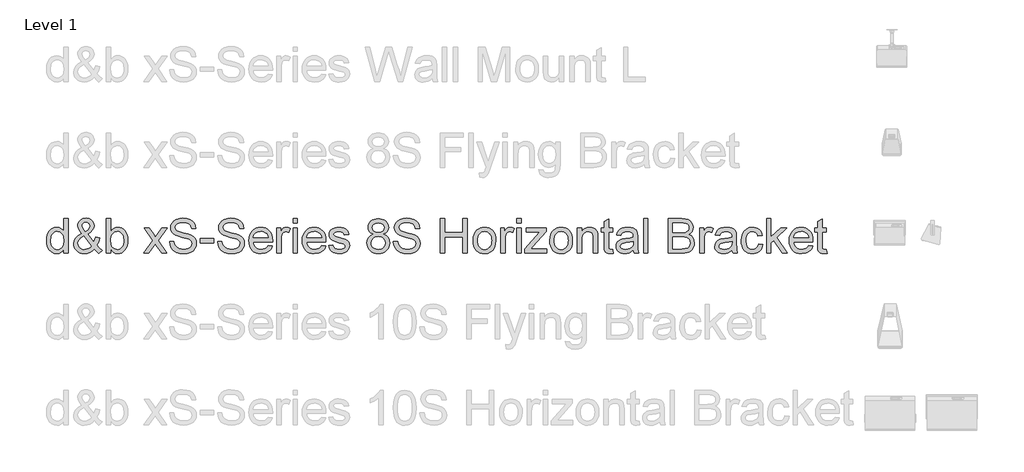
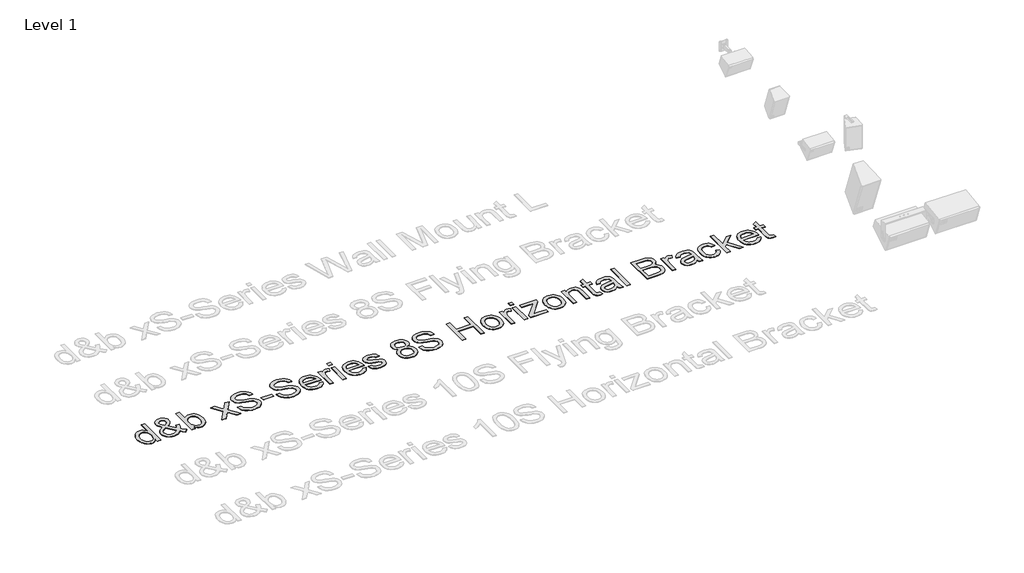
# One storey, part 38 of 55: 1 proxy.
"""IFC4 building model written with IfcOpenShell, lengths in millimetres."""

from ifc_helpers import new_model, si_unit, origin, origin_with_axes, place, context, project, spatial, polyline, outline, extrude, element, save

model = new_model("IFC4")

# Units and contexts
model_context = context("Model", 3, world=origin())
ifc_project = project(units=[si_unit("LENGTHUNIT", "METRE", prefix="MILLI")], contexts=[model_context])

# Site, building, storey
site = spatial("IfcSite", under=ifc_project)
building = spatial("IfcBuilding", under=site)
storey = spatial("IfcBuildingStorey", under=building, Name="Level 1", Elevation=0.0)

# Proxy
placement = place(None, origin())
element("IfcBuildingElementProxy", 1, Name="400mm Arial", ObjectType="400mm Arial", at=placement, inside=storey, context=model_context, shape_type="SweptSolid", body=[
    extrude(outline(polyline([(-20879.8211974, 1351.3054836), (-20879.8211974, 1398.6886846), (-20894.8491769, 1375.2116819), (-20913.0532043, 1358.4423943), (-20934.4332796, 1348.3808217), (-20958.9894028, 1345.0269642), (-20991.4611202, 1349.8830065), (-21021.1859854, 1364.4511335), (-21046.3491139, 1387.7135384), (-21065.1356211, 1418.6524142), (-21076.8342686, 1456.0169621), (-21080.7338177, 1498.5563835), (-21077.1408369, 1540.5685074), (-21066.3618944, 1578.5094038), (-21048.4092531, 1610.2208318), (-21023.2951755, 1633.5445503), (-20992.9203855, 1647.8919481), (-20959.1856065, 1652.674414), (-20934.6110892, 1649.2531115), (-20912.8815261, 1638.9892038), (-20894.4629008, 1623.2561171), (-20879.8211974, 1603.4272776), (-20879.8211974, 1753.1307242), (-20829.5930424, 1753.1307242), (-20829.5930424, 1351.3054836), (-20879.8211974, 1351.3054836)]), holes=[polyline([(-21030.5056627, 1498.7525872), (-21029.089317, 1474.3957335), (-21024.8402799, 1453.3191608), (-21017.7585515, 1435.5228693), (-21007.8441318, 1421.0068589), (-20983.1469871, 1401.6930542), (-20969.2717046, 1396.864603), (-20954.3786151, 1395.2551193), (-20939.415015, 1396.7910266), (-20925.6225058, 1401.3987486), (-20901.5507606, 1419.8296365), (-20892.0440767, 1433.7386416), (-20885.2535882, 1450.8911397), (-20879.8211974, 1494.9266145), (-20885.3516901, 1543.0701049), (-20892.2648059, 1561.6052261), (-20901.9431681, 1576.4492646), (-20913.6448812, 1587.8229496), (-20926.6280499, 1595.9470104), (-20940.8926743, 1600.8214468), (-20956.4387543, 1602.4462589), (-20971.6261493, 1600.8858262), (-20985.5014319, 1596.2045278), (-20998.064602, 1588.4023638), (-21009.3156597, 1577.4793342), (-21018.586286, 1563.1963157), (-21025.2081619, 1545.3141851), (-21030.5056627, 1498.7525872)])]), origin_with_axes(), (0.0, 0.0, 1.0), 5.0),
    extrude(outline(polyline([(-20523.809528, 1400.9450275), (-20549.3405384, 1376.4808748), (-20577.0788409, 1359.00648), (-20607.0734862, 1348.5218431), (-20639.3735254, 1345.0269642), (-20668.6814577, 1347.6144009), (-20694.8010793, 1355.376711), (-20717.7323904, 1368.3138945), (-20737.4753908, 1386.4259514), (-20750.308341, 1403.7961129), (-20759.4747341, 1422.1595558), (-20764.9745699, 1441.5162802), (-20766.8078485, 1461.8662859), (-20760.9094739, 1497.0603301), (-20743.2143499, 1528.6736562), (-20713.796053, 1556.6817387), (-20672.7281596, 1581.0600523), (-20694.6416638, 1609.4114914), (-20707.7995765, 1631.8768186), (-20714.3846642, 1651.0557332), (-20716.5796934, 1669.5479349), (-20714.8506481, 1687.1020374), (-20709.6635119, 1703.4666548), (-20701.018285, 1718.6417871), (-20688.9149674, 1732.6274343), (-20674.1935562, 1744.3444759), (-20657.6940487, 1752.7137912), (-20639.4164449, 1757.7353805), (-20619.3607448, 1759.4092436), (-20600.212487, 1757.8089569), (-20582.8913764, 1753.0080968), (-20567.397413, 1745.0066634), (-20553.7305969, 1733.8046567), (-20542.5715097, 1720.3585698), (-20534.6007332, 1705.6248959), (-20529.8182672, 1689.603635), (-20528.2241119, 1672.2947871), (-20532.9452642, 1644.31123), (-20547.108721, 1618.436863), (-20570.7144823, 1594.6716861), (-20603.7625482, 1573.0156993), (-20531.069066, 1482.4676776), (-20518.6837055, 1508.3420446), (-20509.3885538, 1538.0914353), (-20459.1603987, 1527.2021282), (-20474.6114425, 1480.6773185), (-20494.6732739, 1444.5022557), (-20466.1256311, 1411.1966724), (-20434.0463211, 1383.6790991), (-20471.7174374, 1345.0269642), (-20497.3465498, 1368.47331), (-20523.809528, 1400.9450275)]), holes=[polyline([(-20557.4584678, 1437.1446158), (-20647.1235727, 1549.0788442), (-20681.3733865, 1527.2266537), (-20702.305872, 1506.9931439), (-20713.0112381, 1487.6670765), (-20716.5796934, 1468.5372127), (-20711.6991256, 1444.8456122), (-20697.0574222, 1420.2710949), (-20686.2784798, 1409.3266056), (-20673.4639236, 1401.5091132), (-20658.6137537, 1396.8186177), (-20641.7279702, 1395.2551193), (-20619.0051256, 1398.1736498), (-20595.5710425, 1406.9292412), (-20574.1480476, 1420.3201459), (-20557.4584678, 1437.1446158)]), polyline([(-20629.1709314, 1604.7026019), (-20602.9041569, 1621.3676562), (-20587.8700461, 1635.8499441), (-20580.8067117, 1649.9398245), (-20578.452267, 1665.4276565), (-20581.5547385, 1682.9756277), (-20590.862153, 1696.9674062), (-20604.829406, 1706.1276679), (-20621.9113933, 1709.1810885), (-20639.3612626, 1706.1521934), (-20653.6473468, 1697.0655081), (-20663.1754905, 1683.6132898), (-20666.3515384, 1667.4877957), (-20662.0350563, 1649.0936959), (-20648.9875082, 1628.639457), (-20629.1709314, 1604.7026019)])]), origin_with_axes(), (0.0, 0.0, 1.0), 5.0),
    extrude(outline(polyline([(-20333.590011, 1351.3054836), (-20383.8181661, 1351.3054836), (-20383.8181661, 1753.1307242), (-20333.590011, 1753.1307242), (-20333.590011, 1604.1139907), (-20317.0721094, 1625.3591759), (-20298.4204923, 1640.5343082), (-20277.6351595, 1649.6393876), (-20254.7161112, 1652.674414), (-20228.8417442, 1649.9398245), (-20204.3898543, 1641.736056), (-20182.758393, 1628.5781433), (-20165.3453119, 1610.9811212), (-20151.6968898, 1589.116668), (-20141.3594058, 1563.1564619), (-20134.8478945, 1534.1796234), (-20132.6773907, 1503.265273), (-20134.9245365, 1467.5929822), (-20141.6659741, 1436.2126481), (-20152.9017034, 1409.1242705), (-20168.6317244, 1386.3278495), (-20187.5132678, 1368.2587122), (-20208.2035643, 1355.3521855), (-20230.702614, 1347.6082695), (-20255.0104168, 1345.0269642), (-20278.6836232, 1348.3562962), (-20299.671291, 1358.3442924), (-20317.9734203, 1374.9909527), (-20333.590011, 1398.2962771), (-20333.590011, 1351.3054836)]), holes=[polyline([(-20333.590011, 1500.9108283), (-20330.1564457, 1459.0213318), (-20319.8557498, 1430.6698927), (-20307.6849872, 1415.1759293), (-20293.5399244, 1404.1088126), (-20277.4205617, 1397.4685426), (-20259.3268989, 1395.2551193), (-20244.3050508, 1396.8860628), (-20230.3377977, 1401.7788933), (-20217.4251396, 1409.9336109), (-20205.5670767, 1421.3502155), (-20195.6526569, 1435.9980502), (-20188.5709285, 1453.8464584), (-20184.3218914, 1474.8954399), (-20182.9055458, 1499.1449947), (-20188.3379366, 1545.1057186), (-20195.1284251, 1562.8989445), (-20204.6351089, 1577.2340795), (-20216.0670419, 1588.264408), (-20228.6332778, 1596.1432141), (-20242.3338164, 1600.8704977), (-20257.1686579, 1602.4462589), (-20272.190506, 1600.8153154), (-20286.1577591, 1595.9224849), (-20299.0704171, 1587.7677673), (-20310.9284801, 1576.3511628), (-20320.8428999, 1561.8504808), (-20327.9246283, 1544.443531), (-20332.1736653, 1524.1303135), (-20333.590011, 1500.9108283)])]), origin_with_axes(), (0.0, 0.0, 1.0), 5.0),
    extrude(outline(polyline([(-19950.6003285, 1351.3054836), (-19843.2768878, 1499.7336059), (-19944.3218092, 1646.3958946), (-19884.0872638, 1646.3958946), (-19835.3306367, 1575.6644497), (-19812.4729021, 1542.4079173), (-19792.6563253, 1569.6802359), (-19737.1306695, 1646.3958946), (-19676.6999204, 1646.3958946), (-19782.8461387, 1499.635504), (-19680.623995, 1351.3054836), (-19740.9566422, 1351.3054836), (-19802.5646137, 1440.5781811), (-19813.7482263, 1456.9611926), (-19890.1695795, 1351.3054836), (-19950.6003285, 1351.3054836)])), origin_with_axes(), (0.0, 0.0, 1.0), 5.0),
    extrude(outline(polyline([(-19649.2313981, 1489.43291), (-19599.003243, 1489.43291), (-19593.2397584, 1461.5597175), (-19582.8164352, 1439.155704), (-19566.556051, 1421.3747409), (-19543.2813835, 1407.3706996), (-19514.8318425, 1398.2840144), (-19483.0468381, 1395.2551193), (-19455.063281, 1397.5482504), (-19430.5623402, 1404.4276437), (-19410.7089752, 1415.3169507), (-19396.6681457, 1429.6398231), (-19388.3172244, 1446.0841483), (-19385.533584, 1463.3378138), (-19387.6182486, 1480.150021), (-19393.8722425, 1494.6813598), (-19406.5764341, 1507.0789831), (-19428.0116917, 1517.4900435), (-19501.1466323, 1536.6689582), (-19549.1552327, 1549.360887), (-19579.8733793, 1561.4396792), (-19604.8770922, 1578.3377255), (-19622.5967416, 1598.8164899), (-19633.1549549, 1622.434514), (-19636.6743593, 1648.7503394), (-19632.3210891, 1678.1686363), (-19619.2612782, 1705.6003704), (-19597.8382834, 1728.8505125), (-19568.395461, 1745.7240333), (-19533.054264, 1755.987941), (-19493.9361452, 1759.4092436), (-19451.5561394, 1755.8285255), (-19414.4736342, 1745.0863712), (-19384.013005, 1727.40351), (-19361.4986269, 1703.000671), (-19347.249331, 1673.3984331), (-19341.5839483, 1640.1173753), (-19391.8121033, 1640.1173753), (-19401.0336787, 1670.0874951), (-19409.3968627, 1681.9455581), (-19420.2616443, 1691.7189564), (-19450.3053406, 1704.8155555), (-19491.9741079, 1709.1810885), (-19534.6238939, 1704.8646064), (-19550.9271976, 1699.4690038), (-19563.8827752, 1691.9151602), (-19580.805347, 1672.8588728), (-19586.4462043, 1650.2218674), (-19582.4485532, 1630.9203254), (-19570.4556002, 1615.3957052), (-19542.1041611, 1601.5142912), (-19488.4424407, 1587.3385717), (-19433.0639377, 1573.8740907), (-19399.5621507, 1562.1263923), (-19370.9286687, 1543.9039708), (-19350.9526764, 1521.4141181), (-19339.2172408, 1494.902089), (-19335.3054289, 1464.6131381), (-19339.805852, 1433.6497368), (-19353.3071212, 1404.5257455), (-19375.2574136, 1379.4607189), (-19405.1049061, 1360.6742117), (-19440.9979261, 1348.9387761), (-19481.0848008, 1345.0269642), (-19530.2951491, 1349.2453444), (-19570.7989567, 1361.900485), (-19603.0622077, 1383.041437), (-19627.5508858, 1412.7172513), (-19643.2717098, 1448.8677887), (-19649.2313981, 1489.43291)])), origin_with_axes(), (0.0, 0.0, 1.0), 5.0),
    extrude(outline(polyline([(-19291.3557932, 1470.5973519), (-19291.3557932, 1520.825507), (-19134.3928086, 1520.825507), (-19134.3928086, 1470.5973519), (-19291.3557932, 1470.5973519)])), origin_with_axes(), (0.0, 0.0, 1.0), 5.0),
    extrude(outline(polyline([(-19090.4431729, 1489.43291), (-19040.2150178, 1489.43291), (-19034.4515332, 1461.5597175), (-19024.02821, 1439.155704), (-19007.7678258, 1421.3747409), (-18984.4931583, 1407.3706996), (-18956.0436173, 1398.2840144), (-18924.2586129, 1395.2551193), (-18896.2750558, 1397.5482504), (-18871.774115, 1404.4276437), (-18851.9207499, 1415.3169507), (-18837.8799205, 1429.6398231), (-18829.5289992, 1446.0841483), (-18826.7453587, 1463.3378138), (-18828.8300234, 1480.150021), (-18835.0840173, 1494.6813598), (-18847.7882089, 1507.0789831), (-18869.2234665, 1517.4900435), (-18942.3584071, 1536.6689582), (-18990.3670075, 1549.360887), (-19021.0851541, 1561.4396792), (-19046.088867, 1578.3377255), (-19063.8085164, 1598.8164899), (-19074.3667297, 1622.434514), (-19077.8861341, 1648.7503394), (-19073.5328638, 1678.1686363), (-19060.473053, 1705.6003704), (-19039.0500582, 1728.8505125), (-19009.6072358, 1745.7240333), (-18974.2660388, 1755.987941), (-18935.14792, 1759.4092436), (-18892.7679141, 1755.8285255), (-18855.685409, 1745.0863712), (-18825.2247798, 1727.40351), (-18802.7104017, 1703.000671), (-18788.4611058, 1673.3984331), (-18782.7957231, 1640.1173753), (-18833.0238781, 1640.1173753), (-18842.2454535, 1670.0874951), (-18850.6086375, 1681.9455581), (-18861.4734191, 1691.7189564), (-18891.5171154, 1704.8155555), (-18933.1858827, 1709.1810885), (-18975.8356687, 1704.8646064), (-18992.1389724, 1699.4690038), (-19005.09455, 1691.9151602), (-19022.0171218, 1672.8588728), (-19027.657979, 1650.2218674), (-19023.660328, 1630.9203254), (-19011.667375, 1615.3957052), (-18983.3159359, 1601.5142912), (-18929.6542155, 1587.3385717), (-18874.2757125, 1573.8740907), (-18840.7739255, 1562.1263923), (-18812.1404435, 1543.9039708), (-18792.1644512, 1521.4141181), (-18780.4290156, 1494.902089), (-18776.5172037, 1464.6131381), (-18781.0176267, 1433.6497368), (-18794.518896, 1404.5257455), (-18816.4691883, 1379.4607189), (-18846.3166809, 1360.6742117), (-18882.2097009, 1348.9387761), (-18922.2965756, 1345.0269642), (-18971.5069238, 1349.2453444), (-19012.0107315, 1361.900485), (-19044.2739825, 1383.041437), (-19068.7626606, 1412.7172513), (-19084.4834846, 1448.8677887), (-19090.4431729, 1489.43291)])), origin_with_axes(), (0.0, 0.0, 1.0), 5.0),
    extrude(outline(polyline([(-18500.850962, 1439.204755), (-18451.6038255, 1432.9262356), (-18459.1546035, 1413.2016293), (-18469.3480004, 1395.819205), (-18482.1840164, 1380.7789628), (-18497.6626513, 1368.0809026), (-18515.6244897, 1357.9948045), (-18535.9101161, 1350.7904488), (-18583.4527326, 1345.0269642), (-18614.618469, 1347.5132333), (-18642.3874282, 1354.9720408), (-18666.7596104, 1367.4033865), (-18687.7350155, 1384.8072706), (-18704.602405, 1406.699315), (-18716.6505403, 1432.5951418), (-18723.8794215, 1462.4947509), (-18726.2890486, 1496.3981425), (-18723.8548961, 1531.4511652), (-18716.5524385, 1562.3471215), (-18704.3816758, 1589.0860112), (-18687.342608, 1611.6678343), (-18666.4223852, 1629.6082129), (-18642.6081574, 1642.4227691), (-18615.8999246, 1650.1115028), (-18586.2976867, 1652.674414), (-18557.6488763, 1650.1176342), (-18531.7407868, 1642.4472946), (-18508.5734182, 1629.6633952), (-18488.1467704, 1611.7659362), (-18471.472519, 1589.233164), (-18459.5623394, 1562.5433252), (-18452.4162316, 1531.6964199), (-18450.0341957, 1496.6924481), (-18450.3285013, 1483.1543906), (-18676.0608935, 1483.1543906), (-18673.1515601, 1463.1109533), (-18667.3666157, 1445.5568507), (-18658.7060604, 1430.492083), (-18647.1698942, 1417.9166502), (-18633.3957791, 1408.0022304), (-18618.0213774, 1400.920502), (-18582.4717139, 1395.2551193), (-18555.7389556, 1397.8793442), (-18533.2245775, 1405.7520189), (-18514.9285796, 1419.3636527), (-18500.850962, 1439.204755)]), holes=[polyline([(-18676.0608935, 1533.3825457), (-18500.2623508, 1533.3825457), (-18507.0559049, 1559.9191003), (-18520.3732332, 1578.9018113), (-18534.0707061, 1589.2025071), (-18549.65664, 1596.560147), (-18567.1310348, 1600.974731), (-18586.4938904, 1602.4462589), (-18620.3512967, 1597.7496321), (-18648.3471166, 1583.6597517), (-18667.8080741, 1561.6971966), (-18676.0608935, 1533.3825457)])]), origin_with_axes(), (0.0, 0.0, 1.0), 5.0),
    extrude(outline(polyline([(-18399.8060406, 1351.3054836), (-18399.8060406, 1646.3958946), (-18355.8564049, 1646.3958946), (-18355.8564049, 1602.7405645), (-18339.6205462, 1628.0508458), (-18324.6600117, 1642.9623293), (-18309.6504263, 1650.2463929), (-18293.2674148, 1652.674414), (-18268.2514391, 1648.7993903), (-18242.843056, 1637.1743193), (-18259.618475, 1592.1455631), (-18277.2768108, 1599.871085), (-18294.9351465, 1602.4462589), (-18309.9324692, 1599.9691868), (-18323.3356365, 1592.5379705), (-18334.1636299, 1580.7166958), (-18341.4354307, 1565.0694482), (-18347.5422718, 1537.0123147), (-18349.5778855, 1506.4045327), (-18349.5778855, 1351.3054836), (-18399.8060406, 1351.3054836)])), origin_with_axes(), (0.0, 0.0, 1.0), 5.0),
    extrude(outline(polyline([(-18211.4504591, 1702.9025691), (-18211.4504591, 1753.1307242), (-18161.222304, 1753.1307242), (-18161.222304, 1702.9025691), (-18211.4504591, 1702.9025691)])), origin_with_axes(), (0.0, 0.0, 1.0), 5.0),
    extrude(outline(polyline([(-18211.4504591, 1351.3054836), (-18211.4504591, 1646.3958946), (-18161.222304, 1646.3958946), (-18161.222304, 1351.3054836), (-18211.4504591, 1351.3054836)])), origin_with_axes(), (0.0, 0.0, 1.0), 5.0),
    extrude(outline(polyline([(-17879.2775429, 1439.204755), (-17830.0304065, 1432.9262356), (-17837.5811844, 1413.2016293), (-17847.7745814, 1395.819205), (-17860.6105973, 1380.7789628), (-17876.0892323, 1368.0809026), (-17894.0510707, 1357.9948045), (-17914.336697, 1350.7904488), (-17961.8793136, 1345.0269642), (-17993.0450499, 1347.5132333), (-18020.8140092, 1354.9720408), (-18045.1861914, 1367.4033865), (-18066.1615965, 1384.8072706), (-18083.0289859, 1406.699315), (-18095.0771213, 1432.5951418), (-18102.3060025, 1462.4947509), (-18104.7156295, 1496.3981425), (-18102.281477, 1531.4511652), (-18094.9790194, 1562.3471215), (-18082.8082567, 1589.0860112), (-18065.769189, 1611.6678343), (-18044.8489662, 1629.6082129), (-18021.0347384, 1642.4227691), (-17994.3265055, 1650.1115028), (-17964.7242676, 1652.674414), (-17936.0754573, 1650.1176342), (-17910.1673678, 1642.4472946), (-17886.9999991, 1629.6633952), (-17866.5733513, 1611.7659362), (-17849.8990999, 1589.233164), (-17837.9889203, 1562.5433252), (-17830.8428126, 1531.6964199), (-17828.4607766, 1496.6924481), (-17828.7550822, 1483.1543906), (-18054.4874745, 1483.1543906), (-18051.578141, 1463.1109533), (-18045.7931967, 1445.5568507), (-18037.1326413, 1430.492083), (-18025.5964751, 1417.9166502), (-18011.8223601, 1408.0022304), (-17996.4479584, 1400.920502), (-17960.8982949, 1395.2551193), (-17934.1655366, 1397.8793442), (-17911.6511585, 1405.7520189), (-17893.3551606, 1419.3636527), (-17879.2775429, 1439.204755)]), holes=[polyline([(-18054.4874745, 1533.3825457), (-17878.6889317, 1533.3825457), (-17885.4824859, 1559.9191003), (-17898.7998141, 1578.9018113), (-17912.4972871, 1589.2025071), (-17928.0832209, 1596.560147), (-17945.5576157, 1600.974731), (-17964.9204714, 1602.4462589), (-17998.7778777, 1597.7496321), (-18026.7736975, 1583.6597517), (-18046.234655, 1561.6971966), (-18054.4874745, 1533.3825457)])]), origin_with_axes(), (0.0, 0.0, 1.0), 5.0),
    extrude(outline(polyline([(-17797.0681797, 1439.204755), (-17746.8400246, 1445.4832743), (-17738.918299, 1423.9989658), (-17723.5898825, 1408.2045655), (-17700.7566734, 1398.4924808), (-17670.3205696, 1395.2551193), (-17640.2523479, 1398.2227007), (-17619.1113959, 1407.125445), (-17606.6034081, 1420.0258403), (-17602.4340788, 1434.9863747), (-17606.6279335, 1447.7886682), (-17619.2094978, 1457.5498038), (-17670.9091808, 1471.8726761), (-17746.545719, 1496.4471934), (-17765.6878455, 1508.7957657), (-17779.5569967, 1525.141989), (-17787.9814944, 1544.443531), (-17790.7896603, 1565.6580594), (-17788.5333174, 1585.119017), (-17781.7642887, 1603.0839211), (-17771.0957109, 1618.8415332), (-17757.1407205, 1631.6806148), (-17725.2085633, 1646.5430474), (-17704.3251287, 1651.1415724), (-17681.9946916, 1652.674414), (-17649.302245, 1650.2096047), (-17620.8772295, 1642.8151766), (-17598.0194949, 1631.214631), (-17582.0288908, 1616.1314692), (-17571.4338893, 1596.4497824), (-17564.7629625, 1571.053662), (-17614.9911176, 1564.7751426), (-17621.3309506, 1580.5818057), (-17633.8757267, 1592.4889196), (-17652.748073, 1599.9569241), (-17678.070617, 1602.4462589), (-17706.9125654, 1600.0672887), (-17726.140531, 1592.930378), (-17736.9562617, 1582.6296821), (-17740.5615053, 1570.7593564), (-17734.5772915, 1556.1421785), (-17715.8398352, 1545.0566677), (-17672.5769125, 1534.3635644), (-17598.8533607, 1510.7210148), (-17579.3801404, 1499.4147748), (-17564.6158097, 1483.9392056), (-17555.3083952, 1464.2452561), (-17552.2059237, 1440.2838755), (-17555.8479555, 1415.5131545), (-17566.7740507, 1392.2139614), (-17584.5672766, 1372.2134436), (-17608.8107, 1357.3387483), (-17638.0941069, 1348.1049102), (-17671.0072827, 1345.0269642), (-17698.040478, 1346.5107549), (-17721.6523707, 1350.962127), (-17741.8429609, 1358.3810806), (-17758.6122485, 1368.7676156), (-17772.3097214, 1382.0726811), (-17783.2848676, 1398.2472262), (-17791.5376871, 1417.2912508), (-17797.0681797, 1439.204755)])), origin_with_axes(), (0.0, 0.0, 1.0), 5.0),
    extrude(outline(polyline([(-17278.1093119, 1572.6232919), (-17305.0014857, 1585.8670437), (-17323.8738321, 1603.8196851), (-17335.0206565, 1626.113334), (-17338.7362647, 1652.3801084), (-17336.7129137, 1672.8650042), (-17330.6428608, 1691.64538), (-17320.5261059, 1708.721236), (-17306.3626491, 1724.092572), (-17288.833072, 1736.7967636), (-17268.6179564, 1745.8711861), (-17245.7173022, 1751.3158397), (-17220.1311094, 1753.1307242), (-17194.4222893, 1751.2729201), (-17171.3499568, 1745.6995079), (-17150.914112, 1736.4104875), (-17133.1147548, 1723.405859), (-17118.6937806, 1707.734086), (-17108.3930847, 1690.4436322), (-17102.2126672, 1671.5344976), (-17100.152528, 1651.0066823), (-17103.8190853, 1625.5860364), (-17114.8187569, 1603.6725323), (-17133.2741703, 1585.8302555), (-17159.3079529, 1572.6232919), (-17128.3936025, 1556.6940015), (-17105.8914872, 1533.2353929), (-17092.1694888, 1503.3756376), (-17087.5954893, 1468.2429071), (-17089.8640949, 1443.1901432), (-17096.6699118, 1420.222044), (-17108.01294, 1399.3386094), (-17123.8931795, 1380.5398395), (-17143.4767643, 1365.0029565), (-17165.9298288, 1353.905183), (-17191.2523728, 1347.2465189), (-17219.4443964, 1345.0269642), (-17247.6364199, 1347.2557159), (-17272.9589639, 1353.9419712), (-17295.4120284, 1365.08573), (-17314.9956132, 1380.6869923), (-17330.8758527, 1399.6175866), (-17342.2188809, 1420.7493415), (-17349.0246978, 1444.0822571), (-17351.2933034, 1469.6163332), (-17346.535363, 1506.1102271), (-17332.2615415, 1536.1293979), (-17309.2076032, 1558.6437761), (-17278.1093119, 1572.6232919)]), holes=[polyline([(-17288.5081096, 1650.9085804), (-17284.0567374, 1628.9828135), (-17270.702621, 1611.4716306), (-17248.8381678, 1599.9937123), (-17218.8557852, 1596.1677396), (-17189.5723783, 1599.9691868), (-17168.0390189, 1611.3735287), (-17154.7952671, 1628.2961005), (-17150.3806831, 1648.6522375), (-17154.9424199, 1669.7809268), (-17168.6276301, 1687.2553216), (-17190.4552951, 1698.9907572), (-17219.4443964, 1702.9025691), (-17248.6174386, 1699.0765963), (-17270.4083154, 1687.5986781), (-17283.983161, 1670.7742082), (-17288.5081096, 1650.9085804)]), polyline([(-17301.0651483, 1471.3821668), (-17298.968221, 1452.1664639), (-17292.6774389, 1433.5638977), (-17281.0646305, 1417.3403017), (-17263.0016246, 1405.2615095), (-17241.3701633, 1397.7567168), (-17219.0519889, 1395.2551193), (-17184.8634888, 1400.5158318), (-17170.9698121, 1407.0917225), (-17159.209851, 1416.2979694), (-17143.170196, 1440.1980363), (-17137.8236444, 1469.812537), (-17143.3418743, 1499.9298096), (-17159.8965641, 1524.3571741), (-17171.9753562, 1533.7994786), (-17186.1388131, 1540.5439819), (-17220.7197206, 1545.9395845), (-17254.4299741, 1540.6175583), (-17268.1673009, 1533.9650255), (-17279.8260945, 1524.6514797), (-17295.7553849, 1500.6900991), (-17301.0651483, 1471.3821668)])]), origin_with_axes(), (0.0, 0.0, 1.0), 5.0),
    extrude(outline(polyline([(-17043.6458536, 1489.43291), (-16993.4176985, 1489.43291), (-16987.6542139, 1461.5597175), (-16977.2308907, 1439.155704), (-16960.9705065, 1421.3747409), (-16937.695839, 1407.3706996), (-16909.246298, 1398.2840144), (-16877.4612936, 1395.2551193), (-16849.4777365, 1397.5482504), (-16824.9767957, 1404.4276437), (-16805.1234307, 1415.3169507), (-16791.0826012, 1429.6398231), (-16782.7316799, 1446.0841483), (-16779.9480394, 1463.3378138), (-16782.0327041, 1480.150021), (-16788.286698, 1494.6813598), (-16800.9908896, 1507.0789831), (-16822.4261472, 1517.4900435), (-16895.5610878, 1536.6689582), (-16943.5696882, 1549.360887), (-16974.2878348, 1561.4396792), (-16999.2915477, 1578.3377255), (-17017.0111971, 1598.8164899), (-17027.5694104, 1622.434514), (-17031.0888148, 1648.7503394), (-17026.7355445, 1678.1686363), (-17013.6757337, 1705.6003704), (-16992.2527389, 1728.8505125), (-16962.8099165, 1745.7240333), (-16927.4687195, 1755.987941), (-16888.3506007, 1759.4092436), (-16845.9705948, 1755.8285255), (-16808.8880897, 1745.0863712), (-16778.4274605, 1727.40351), (-16755.9130824, 1703.000671), (-16741.6637865, 1673.3984331), (-16735.9984038, 1640.1173753), (-16786.2265588, 1640.1173753), (-16795.4481342, 1670.0874951), (-16803.8113182, 1681.9455581), (-16814.6760998, 1691.7189564), (-16844.7197961, 1704.8155555), (-16886.3885634, 1709.1810885), (-16929.0383494, 1704.8646064), (-16945.3416531, 1699.4690038), (-16958.2972307, 1691.9151602), (-16975.2198025, 1672.8588728), (-16980.8606597, 1650.2218674), (-16976.8630087, 1630.9203254), (-16964.8700557, 1615.3957052), (-16936.5186166, 1601.5142912), (-16882.8568962, 1587.3385717), (-16827.4783932, 1573.8740907), (-16793.9766062, 1562.1263923), (-16765.3431242, 1543.9039708), (-16745.3671319, 1521.4141181), (-16733.6316963, 1494.902089), (-16729.7198844, 1464.6131381), (-16734.2203074, 1433.6497368), (-16747.7215767, 1404.5257455), (-16769.671869, 1379.4607189), (-16799.5193616, 1360.6742117), (-16835.4123816, 1348.9387761), (-16875.4992563, 1345.0269642), (-16924.7096046, 1349.2453444), (-16965.2134122, 1361.900485), (-16997.4766632, 1383.041437), (-17021.9653413, 1412.7172513), (-17037.6861653, 1448.8677887), (-17043.6458536, 1489.43291)])), origin_with_axes(), (0.0, 0.0, 1.0), 5.0),
    extrude(outline(polyline([(-16497.4146672, 1351.3054836), (-16497.4146672, 1753.1307242), (-16447.1865121, 1753.1307242), (-16447.1865121, 1589.8892202), (-16233.716853, 1589.8892202), (-16233.716853, 1753.1307242), (-16183.4886979, 1753.1307242), (-16183.4886979, 1351.3054836), (-16233.716853, 1351.3054836), (-16233.716853, 1539.6610651), (-16447.1865121, 1539.6610651), (-16447.1865121, 1351.3054836), (-16497.4146672, 1351.3054836)])), origin_with_axes(), (0.0, 0.0, 1.0), 5.0),
    extrude(outline(polyline([(-16114.4249847, 1498.8506891), (-16111.7087893, 1537.067497), (-16103.5602031, 1569.999067), (-16089.9792261, 1597.6453989), (-16070.9658583, 1620.0064928), (-16051.8237319, 1634.2987084), (-16030.6950426, 1644.5074337), (-16007.5797906, 1650.6326689), (-15982.4779758, 1652.674414), (-15954.7672645, 1650.1881449), (-15929.7114349, 1642.7293374), (-15907.3104871, 1630.2979917), (-15887.564421, 1612.8941076), (-15871.4481239, 1591.1062964), (-15859.9364832, 1565.5231694), (-15853.0294987, 1536.1447264), (-15850.7271706, 1502.9709675), (-15854.798398, 1452.2277776), (-15867.0120802, 1413.6001681), (-15887.012598, 1384.6723805), (-15914.4443321, 1363.0286565), (-15947.0264142, 1349.5273873), (-15982.4779758, 1345.0269642), (-16010.5933573, 1347.5040363), (-16035.8821787, 1354.9352526), (-16058.3444402, 1367.3206131), (-16077.9801417, 1384.6601178), (-16093.9247605, 1406.6594611), (-16105.313774, 1433.0243374), (-16112.147182, 1463.7547468), (-16114.4249847, 1498.8506891)]), holes=[polyline([(-16064.1968296, 1498.948791), (-16062.7436958, 1474.5858058), (-16058.3842941, 1453.4908391), (-16051.1186247, 1435.6638907), (-16040.9466875, 1421.1049608), (-16028.5735898, 1409.7956551), (-16014.7044385, 1401.7175796), (-15999.3392339, 1396.8707344), (-15982.4779758, 1395.2551193), (-15965.7025568, 1396.8799314), (-15950.3986658, 1401.7543678), (-15936.5663028, 1409.8784286), (-15924.2054677, 1421.2521136), (-15914.0335306, 1435.9551307), (-15906.7678612, 1454.0671876), (-15902.4084595, 1475.5882843), (-15900.9553256, 1500.5184208), (-15902.4176566, 1524.1088538), (-15906.8046494, 1544.6519975), (-15914.116304, 1562.1478521), (-15924.3526205, 1576.5964174), (-15936.7594408, 1587.9057231), (-15950.5826068, 1595.9837986), (-15965.8221184, 1600.8306439), (-15982.4779758, 1602.4462589), (-15999.3392339, 1600.8367752), (-16014.7044385, 1596.008324), (-16028.5735898, 1587.9609054), (-16040.9466875, 1576.6945193), (-16051.1186247, 1562.1785089), (-16058.3842941, 1544.3822174), (-16062.7436958, 1523.3056447), (-16064.1968296, 1498.948791)])]), origin_with_axes(), (0.0, 0.0, 1.0), 5.0),
    extrude(outline(polyline([(-15794.2204961, 1351.3054836), (-15794.2204961, 1646.3958946), (-15750.2708604, 1646.3958946), (-15750.2708604, 1602.7405645), (-15734.0350017, 1628.0508458), (-15719.0744672, 1642.9623293), (-15704.0648818, 1650.2463929), (-15687.6818703, 1652.674414), (-15662.6658946, 1648.7993903), (-15637.2575115, 1637.1743193), (-15654.0329305, 1592.1455631), (-15671.6912662, 1599.871085), (-15689.349602, 1602.4462589), (-15704.3469247, 1599.9691868), (-15717.750092, 1592.5379705), (-15728.5780854, 1580.7166958), (-15735.8498862, 1565.0694482), (-15741.9567273, 1537.0123147), (-15743.992341, 1506.4045327), (-15743.992341, 1351.3054836), (-15794.2204961, 1351.3054836)])), origin_with_axes(), (0.0, 0.0, 1.0), 5.0),
    extrude(outline(polyline([(-15605.8649146, 1351.3054836), (-15605.8649146, 1646.3958946), (-15555.6367595, 1646.3958946), (-15555.6367595, 1351.3054836), (-15605.8649146, 1351.3054836)])), origin_with_axes(), (0.0, 0.0, 1.0), 5.0),
    extrude(outline(polyline([(-15605.8649146, 1702.9025691), (-15605.8649146, 1753.1307242), (-15555.6367595, 1753.1307242), (-15555.6367595, 1702.9025691), (-15605.8649146, 1702.9025691)])), origin_with_axes(), (0.0, 0.0, 1.0), 5.0),
    extrude(outline(polyline([(-15511.6871238, 1351.3054836), (-15511.6871238, 1398.5905827), (-15338.3411277, 1596.1677396), (-15389.6484033, 1596.1677396), (-15499.130085, 1596.1677396), (-15499.130085, 1646.3958946), (-15266.8248678, 1646.3958946), (-15266.8248678, 1603.7215832), (-15420.5504909, 1428.4135498), (-15444.0949386, 1401.5336386), (-15386.0186343, 1401.5336386), (-15260.5463484, 1401.5336386), (-15260.5463484, 1351.3054836), (-15511.6871238, 1351.3054836)])), origin_with_axes(), (0.0, 0.0, 1.0), 5.0),
    extrude(outline(polyline([(-15222.8752321, 1498.8506891), (-15220.1590367, 1537.067497), (-15212.0104505, 1569.999067), (-15198.4294735, 1597.6453989), (-15179.4161058, 1620.0064928), (-15160.2739793, 1634.2987084), (-15139.14529, 1644.5074337), (-15116.030038, 1650.6326689), (-15090.9282232, 1652.674414), (-15063.2175119, 1650.1881449), (-15038.1616824, 1642.7293374), (-15015.7607345, 1630.2979917), (-14996.0146684, 1612.8941076), (-14979.8983714, 1591.1062964), (-14968.3867306, 1565.5231694), (-14961.4797461, 1536.1447264), (-14959.177418, 1502.9709675), (-14963.2486454, 1452.2277776), (-14975.4623276, 1413.6001681), (-14995.4628454, 1384.6723805), (-15022.8945796, 1363.0286565), (-15055.4766616, 1349.5273873), (-15090.9282232, 1345.0269642), (-15119.0436047, 1347.5040363), (-15144.3324262, 1354.9352526), (-15166.7946876, 1367.3206131), (-15186.4303891, 1384.6601178), (-15202.3750079, 1406.6594611), (-15213.7640214, 1433.0243374), (-15220.5974294, 1463.7547468), (-15222.8752321, 1498.8506891)]), holes=[polyline([(-15172.6470771, 1498.948791), (-15171.1939432, 1474.5858058), (-15166.8345415, 1453.4908391), (-15159.5688721, 1435.6638907), (-15149.396935, 1421.1049608), (-15137.0238372, 1409.7956551), (-15123.154686, 1401.7175796), (-15107.7894813, 1396.8707344), (-15090.9282232, 1395.2551193), (-15074.1528042, 1396.8799314), (-15058.8489132, 1401.7543678), (-15045.0165502, 1409.8784286), (-15032.6557152, 1421.2521136), (-15022.483778, 1435.9551307), (-15015.2181086, 1454.0671876), (-15010.8587069, 1475.5882843), (-15009.4055731, 1500.5184208), (-15010.867904, 1524.1088538), (-15015.2548968, 1544.6519975), (-15022.5665514, 1562.1478521), (-15032.802868, 1576.5964174), (-15045.2096882, 1587.9057231), (-15059.0328542, 1595.9837986), (-15074.2723659, 1600.8306439), (-15090.9282232, 1602.4462589), (-15107.7894813, 1600.8367752), (-15123.154686, 1596.008324), (-15137.0238372, 1587.9609054), (-15149.396935, 1576.6945193), (-15159.5688721, 1562.1785089), (-15166.8345415, 1544.3822174), (-15171.1939432, 1523.3056447), (-15172.6470771, 1498.948791)])]), origin_with_axes(), (0.0, 0.0, 1.0), 5.0),
    extrude(outline(polyline([(-14902.6707435, 1351.3054836), (-14902.6707435, 1646.3958946), (-14852.4425885, 1646.3958946), (-14852.4425885, 1605.1931112), (-14834.9927191, 1625.9661812), (-14814.0357082, 1640.8040883), (-14789.5715555, 1649.7068326), (-14761.6002611, 1652.674414), (-14736.8418028, 1650.2831811), (-14714.1680092, 1643.1094821), (-14695.2588746, 1632.0484968), (-14681.7943936, 1617.9954046), (-14672.6586574, 1600.9869937), (-14666.7357573, 1581.0600523), (-14664.0870069, 1532.4996289), (-14664.0870069, 1351.3054836), (-14714.315162, 1351.3054836), (-14714.315162, 1525.7306002), (-14715.7621645, 1551.7030691), (-14720.1031721, 1570.1707452), (-14728.1107368, 1583.4022343), (-14740.557411, 1593.666142), (-14756.5112268, 1600.2512297), (-14775.0402167, 1602.4462589), (-14804.4585135, 1597.5166402), (-14829.5358029, 1582.727784), (-14839.5575216, 1570.6551232), (-14846.7158921, 1554.1556157), (-14851.0109144, 1533.2292616), (-14852.4425885, 1507.8760607), (-14852.4425885, 1351.3054836), (-14902.6707435, 1351.3054836)])), origin_with_axes(), (0.0, 0.0, 1.0), 5.0),
    extrude(outline(polyline([(-14488.2884642, 1393.1949801), (-14482.0099448, 1349.8339556), (-14519.5829592, 1345.0269642), (-14543.6914926, 1347.1116288), (-14561.6686595, 1353.3656227), (-14574.372851, 1363.004131), (-14582.6624587, 1375.2423387), (-14587.2241954, 1396.2606634), (-14588.7447743, 1432.2395225), (-14588.7447743, 1596.1677396), (-14626.4158906, 1596.1677396), (-14626.4158906, 1646.3958946), (-14588.7447743, 1646.3958946), (-14588.7447743, 1718.1083582), (-14538.5166192, 1747.6370197), (-14538.5166192, 1646.3958946), (-14488.2884642, 1646.3958946), (-14488.2884642, 1596.1677396), (-14538.5166192, 1596.1677396), (-14538.5166192, 1433.7110505), (-14535.8678689, 1407.812158), (-14527.2839556, 1398.6396336), (-14510.1651801, 1395.2551193), (-14488.2884642, 1393.1949801)])), origin_with_axes(), (0.0, 0.0, 1.0), 5.0),
    extrude(outline(polyline([(-14249.7047276, 1388.9765999), (-14273.7028964, 1368.3997336), (-14298.4123037, 1354.9352526), (-14324.3970353, 1347.5040363), (-14352.2211769, 1345.0269642), (-14374.5853365, 1346.5168863), (-14394.1965125, 1350.9866525), (-14411.054705, 1358.4362629), (-14425.1599138, 1368.8657175), (-14436.2975412, 1381.6128286), (-14444.2529893, 1396.0154087), (-14449.0262582, 1412.0734578), (-14450.6173479, 1429.7869759), (-14448.2138522, 1450.6090968), (-14441.003365, 1469.5182314), (-14429.8810661, 1485.7050391), (-14415.7421347, 1498.3601798), (-14399.1261313, 1507.9251117), (-14380.572616, 1514.8412932), (-14337.1134896, 1522.3951368), (-14285.7571631, 1530.3413879), (-14249.9990332, 1539.6610651), (-14249.7047276, 1550.8446778), (-14253.1628183, 1573.260954), (-14263.5370906, 1587.9271829), (-14286.7381817, 1598.8164899), (-14319.0627464, 1602.4462589), (-14348.9838153, 1600.0305005), (-14369.8795126, 1592.7832252), (-14384.1288086, 1579.3800578), (-14394.1106734, 1558.4966233), (-14444.3388285, 1564.7751426), (-14435.6200252, 1592.2436649), (-14422.6092653, 1613.8260753), (-14404.0925382, 1630.3317142), (-14378.8558333, 1642.5699219), (-14347.9905339, 1650.148291), (-14312.5880233, 1652.674414), (-14278.6325151, 1650.4425966), (-14251.7158158, 1643.7471443), (-14231.4209924, 1633.6794403), (-14217.331112, 1621.330868), (-14207.9869093, 1606.0637652), (-14201.9291191, 1587.2404698), (-14199.4765725, 1543.2908341), (-14199.4765725, 1480.7999459), (-14196.925924, 1393.5383366), (-14186.9195337, 1351.3054836), (-14237.1476888, 1351.3054836), (-14245.1920417, 1368.7676156), (-14249.7047276, 1388.9765999)]), holes=[polyline([(-14249.7047276, 1489.43291), (-14283.4517692, 1481.069726), (-14330.7368684, 1474.0309172), (-14373.9507401, 1465.8884623), (-14385.1956664, 1460.3211815), (-14393.5220622, 1452.6447105), (-14398.6724101, 1443.4476606), (-14400.3891928, 1433.318643), (-14396.6490592, 1418.382634), (-14385.4286583, 1406.1444263), (-14366.9732449, 1397.977446), (-14341.5280736, 1395.2551193), (-14314.5500606, 1398.2594889), (-14290.7113073, 1407.2725978), (-14271.3852398, 1420.5531378), (-14257.9452842, 1436.3598009), (-14251.9855959, 1452.6447105), (-14249.9990332, 1475.2081395), (-14249.7047276, 1489.43291)])]), origin_with_axes(), (0.0, 0.0, 1.0), 5.0),
    extrude(outline(polyline([(-14130.4128593, 1351.3054836), (-14130.4128593, 1753.1307242), (-14080.1847042, 1753.1307242), (-14080.1847042, 1351.3054836), (-14130.4128593, 1351.3054836)])), origin_with_axes(), (0.0, 0.0, 1.0), 5.0),
    extrude(outline(polyline([(-13841.6009676, 1351.3054836), (-13841.6009676, 1753.1307242), (-13688.267752, 1753.1307242), (-13646.0962126, 1750.1754055), (-13613.170774, 1741.3094494), (-13587.9340692, 1726.3121267), (-13568.8287309, 1704.9627083), (-13556.7989896, 1679.8486307), (-13552.7890759, 1653.5573308), (-13556.1613275, 1629.3629583), (-13566.2780824, 1606.6155882), (-13583.2129169, 1586.7131723), (-13607.0394074, 1571.053662), (-13578.5776038, 1556.1912294), (-13557.5470164, 1533.5787494), (-13544.5607819, 1504.7122756), (-13540.2320371, 1471.0878612), (-13543.1873558, 1443.0675159), (-13552.0533119, 1417.0827843), (-13565.284801, 1394.9853391), (-13581.3367187, 1378.6268531), (-13600.99388, 1366.7810528), (-13625.0410997, 1358.2216651), (-13654.2631929, 1353.0345289), (-13689.4449744, 1351.3054836), (-13841.6009676, 1351.3054836)]), holes=[polyline([(-13791.3728125, 1401.5336386), (-13688.3658538, 1401.5336386), (-13651.087145, 1403.495676), (-13619.5473953, 1414.4340339), (-13607.9713752, 1423.8640758), (-13598.651698, 1436.7522083), (-13592.5080686, 1452.5220832), (-13590.4601922, 1470.5973519), (-13592.8636879, 1491.5911511), (-13600.074175, 1509.6418943), (-13612.668002, 1523.7563002), (-13631.2215173, 1532.9410873), (-13657.5005545, 1537.9810707), (-13693.2709471, 1539.6610651), (-13791.3728125, 1539.6610651), (-13791.3728125, 1401.5336386)]), polyline([(-13791.3728125, 1589.8892202), (-13699.6475684, 1589.8892202), (-13646.0839499, 1594.2057023), (-13627.3342308, 1601.6491813), (-13613.8574871, 1612.7960057), (-13605.727295, 1627.4744974), (-13603.017231, 1645.5129778), (-13605.543354, 1663.0241608), (-13613.1217231, 1678.2790009), (-13625.4089817, 1690.1861148), (-13642.0617734, 1697.6541193), (-13667.6173093, 1701.5904566), (-13706.6128008, 1702.9025691), (-13791.3728125, 1702.9025691), (-13791.3728125, 1589.8892202)])]), origin_with_axes(), (0.0, 0.0, 1.0), 5.0),
    extrude(outline(polyline([(-13477.4468433, 1351.3054836), (-13477.4468433, 1646.3958946), (-13433.4972076, 1646.3958946), (-13433.4972076, 1602.7405645), (-13417.2613489, 1628.0508458), (-13402.3008144, 1642.9623293), (-13387.291229, 1650.2463929), (-13370.9082175, 1652.674414), (-13345.8922418, 1648.7993903), (-13320.4838587, 1637.1743193), (-13337.2592777, 1592.1455631), (-13354.9176134, 1599.871085), (-13372.5759492, 1602.4462589), (-13387.5732719, 1599.9691868), (-13400.9764392, 1592.5379705), (-13411.8044326, 1580.7166958), (-13419.0762334, 1565.0694482), (-13425.1830745, 1537.0123147), (-13427.2186882, 1506.4045327), (-13427.2186882, 1351.3054836), (-13477.4468433, 1351.3054836)])), origin_with_axes(), (0.0, 0.0, 1.0), 5.0),
    extrude(outline(polyline([(-13100.7356802, 1388.9765999), (-13124.733849, 1368.3997336), (-13149.4432564, 1354.9352526), (-13175.427988, 1347.5040363), (-13203.2521295, 1345.0269642), (-13225.6162892, 1346.5168863), (-13245.2274652, 1350.9866525), (-13262.0856576, 1358.4362629), (-13276.1908665, 1368.8657175), (-13287.3284939, 1381.6128286), (-13295.283942, 1396.0154087), (-13300.0572109, 1412.0734578), (-13301.6483005, 1429.7869759), (-13299.2448048, 1450.6090968), (-13292.0343177, 1469.5182314), (-13280.9120187, 1485.7050391), (-13266.7730874, 1498.3601798), (-13250.1570839, 1507.9251117), (-13231.6035686, 1514.8412932), (-13188.1444423, 1522.3951368), (-13136.7881157, 1530.3413879), (-13101.0299858, 1539.6610651), (-13100.7356802, 1550.8446778), (-13104.193771, 1573.260954), (-13114.5680432, 1587.9271829), (-13137.7691344, 1598.8164899), (-13170.093699, 1602.4462589), (-13200.014768, 1600.0305005), (-13220.9104653, 1592.7832252), (-13235.1597613, 1579.3800578), (-13245.1416261, 1558.4966233), (-13295.3697811, 1564.7751426), (-13286.6509778, 1592.2436649), (-13273.640218, 1613.8260753), (-13255.1234909, 1630.3317142), (-13229.886786, 1642.5699219), (-13199.0214866, 1650.148291), (-13163.6189759, 1652.674414), (-13129.6634678, 1650.4425966), (-13102.7467685, 1643.7471443), (-13082.4519451, 1633.6794403), (-13068.3620646, 1621.330868), (-13059.017862, 1606.0637652), (-13052.9600718, 1587.2404698), (-13050.5075251, 1543.2908341), (-13050.5075251, 1480.7999459), (-13047.9568766, 1393.5383366), (-13037.9504864, 1351.3054836), (-13088.1786414, 1351.3054836), (-13096.2229944, 1368.7676156), (-13100.7356802, 1388.9765999)]), holes=[polyline([(-13100.7356802, 1489.43291), (-13134.4827219, 1481.069726), (-13181.767821, 1474.0309172), (-13224.9816927, 1465.8884623), (-13236.226619, 1460.3211815), (-13244.5530149, 1452.6447105), (-13249.7033628, 1443.4476606), (-13251.4201454, 1433.318643), (-13247.6800118, 1418.382634), (-13236.459611, 1406.1444263), (-13218.0041975, 1397.977446), (-13192.5590262, 1395.2551193), (-13165.5810132, 1398.2594889), (-13141.7422599, 1407.2725978), (-13122.4161925, 1420.5531378), (-13108.9762369, 1436.3598009), (-13103.0165486, 1452.6447105), (-13101.0299858, 1475.2081395), (-13100.7356802, 1489.43291)])]), origin_with_axes(), (0.0, 0.0, 1.0), 5.0),
    extrude(outline(polyline([(-12793.0882304, 1458.0403131), (-12742.8600753, 1451.7617937), (-12748.3231229, 1428.0609962), (-12756.8641166, 1407.0886568), (-12768.4830563, 1388.8447755), (-12783.179942, 1373.3293524), (-12800.3355057, 1360.9470575), (-12819.3304794, 1352.1025612), (-12840.164863, 1346.7958634), (-12862.8386567, 1345.0269642), (-12891.0092205, 1347.4948392), (-12916.2673851, 1354.8984644), (-12938.6131506, 1367.2378396), (-12958.046517, 1384.512965), (-12973.776538, 1406.398878), (-12985.0122673, 1432.5706163), (-12991.7537048, 1463.0281798), (-12994.0008507, 1497.7715686), (-12990.1626152, 1542.469231), (-12978.6479088, 1581.2072051), (-12959.2727903, 1612.4894374), (-12931.853319, 1634.8198745), (-12899.0505077, 1648.2107791), (-12863.5253697, 1652.674414), (-12841.2409179, 1651.1415724), (-12821.0840502, 1646.5430474), (-12803.0547668, 1638.8788392), (-12787.1530675, 1628.1489477), (-12773.6487326, 1614.5986275), (-12762.8115422, 1598.4731334), (-12754.6414962, 1579.7724653), (-12749.1385947, 1558.4966233), (-12799.3667498, 1552.2181039), (-12808.4779605, 1574.1316081), (-12822.6659428, 1589.8401692), (-12841.1458817, 1599.2947365), (-12863.1329623, 1602.4462589), (-12880.1996212, 1600.8950232), (-12895.592417, 1596.241316), (-12909.3113497, 1588.4851372), (-12921.3564194, 1577.626487), (-12931.1635402, 1563.4139793), (-12938.1686265, 1545.596228), (-12942.3716783, 1524.1732331), (-12943.7726956, 1499.1449947), (-12938.2912539, 1452.0683621), (-12931.4394517, 1434.1310491), (-12921.8469287, 1419.9277384), (-12910.0409823, 1409.1334675), (-12896.5489102, 1401.423274), (-12881.3707122, 1396.797158), (-12864.5063884, 1395.2551193), (-12838.4971313, 1399.1056175), (-12817.1722383, 1410.6571121), (-12801.6598809, 1430.2039088), (-12793.0882304, 1458.0403131)])), origin_with_axes(), (0.0, 0.0, 1.0), 5.0),
    extrude(outline(polyline([(-12698.9104396, 1351.3054836), (-12698.9104396, 1753.1307242), (-12648.6822845, 1753.1307242), (-12648.6822845, 1537.2085185), (-12536.0613431, 1646.3958946), (-12466.6052224, 1646.3958946), (-12580.6976918, 1535.8350924), (-12460.326703, 1351.3054836), (-12518.9916185, 1351.3054836), (-12616.7010764, 1500.9108283), (-12648.6822845, 1469.812537), (-12648.6822845, 1351.3054836), (-12698.9104396, 1351.3054836)])), origin_with_axes(), (0.0, 0.0, 1.0), 5.0),
    extrude(outline(polyline([(-12209.7745388, 1439.204755), (-12160.5274024, 1432.9262356), (-12168.0781804, 1413.2016293), (-12178.2715773, 1395.819205), (-12191.1075933, 1380.7789628), (-12206.5862282, 1368.0809026), (-12224.5480666, 1357.9948045), (-12244.833693, 1350.7904488), (-12292.3763095, 1345.0269642), (-12323.5420458, 1347.5132333), (-12351.3110051, 1354.9720408), (-12375.6831873, 1367.4033865), (-12396.6585924, 1384.8072706), (-12413.5259819, 1406.699315), (-12425.5741172, 1432.5951418), (-12432.8029984, 1462.4947509), (-12435.2126255, 1496.3981425), (-12432.7784729, 1531.4511652), (-12425.4760153, 1562.3471215), (-12413.3052527, 1589.0860112), (-12396.2661849, 1611.6678343), (-12375.3459621, 1629.6082129), (-12351.5317343, 1642.4227691), (-12324.8235015, 1650.1115028), (-12295.2212636, 1652.674414), (-12266.5724532, 1650.1176342), (-12240.6643637, 1642.4472946), (-12217.496995, 1629.6633952), (-12197.0703473, 1611.7659362), (-12180.3960958, 1589.233164), (-12168.4859162, 1562.5433252), (-12161.3398085, 1531.6964199), (-12158.9577726, 1496.6924481), (-12159.2520782, 1483.1543906), (-12384.9844704, 1483.1543906), (-12382.075137, 1463.1109533), (-12376.2901926, 1445.5568507), (-12367.6296373, 1430.492083), (-12356.093471, 1417.9166502), (-12342.319356, 1408.0022304), (-12326.9449543, 1400.920502), (-12291.3952908, 1395.2551193), (-12264.6625325, 1397.8793442), (-12242.1481544, 1405.7520189), (-12223.8521565, 1419.3636527), (-12209.7745388, 1439.204755)]), holes=[polyline([(-12384.9844704, 1533.3825457), (-12209.1859276, 1533.3825457), (-12215.9794818, 1559.9191003), (-12229.29681, 1578.9018113), (-12242.994283, 1589.2025071), (-12258.5802169, 1596.560147), (-12276.0546116, 1600.974731), (-12295.4174673, 1602.4462589), (-12329.2748736, 1597.7496321), (-12357.2706934, 1583.6597517), (-12376.731651, 1561.6971966), (-12384.9844704, 1533.3825457)])]), origin_with_axes(), (0.0, 0.0, 1.0), 5.0),
    extrude(outline(polyline([(-12001.994788, 1393.1949801), (-11995.7162686, 1349.8339556), (-12033.289283, 1345.0269642), (-12057.3978164, 1347.1116288), (-12075.3749833, 1353.3656227), (-12088.0791748, 1363.004131), (-12096.3687825, 1375.2423387), (-12100.9305192, 1396.2606634), (-12102.4510981, 1432.2395225), (-12102.4510981, 1596.1677396), (-12140.1222144, 1596.1677396), (-12140.1222144, 1646.3958946), (-12102.4510981, 1646.3958946), (-12102.4510981, 1718.1083582), (-12052.222943, 1747.6370197), (-12052.222943, 1646.3958946), (-12001.994788, 1646.3958946), (-12001.994788, 1596.1677396), (-12052.222943, 1596.1677396), (-12052.222943, 1433.7110505), (-12049.5741927, 1407.812158), (-12040.9902794, 1398.6396336), (-12023.8715039, 1395.2551193), (-12001.994788, 1393.1949801)])), origin_with_axes(), (0.0, 0.0, 1.0), 5.0),
])

save(model, "model.ifc")
